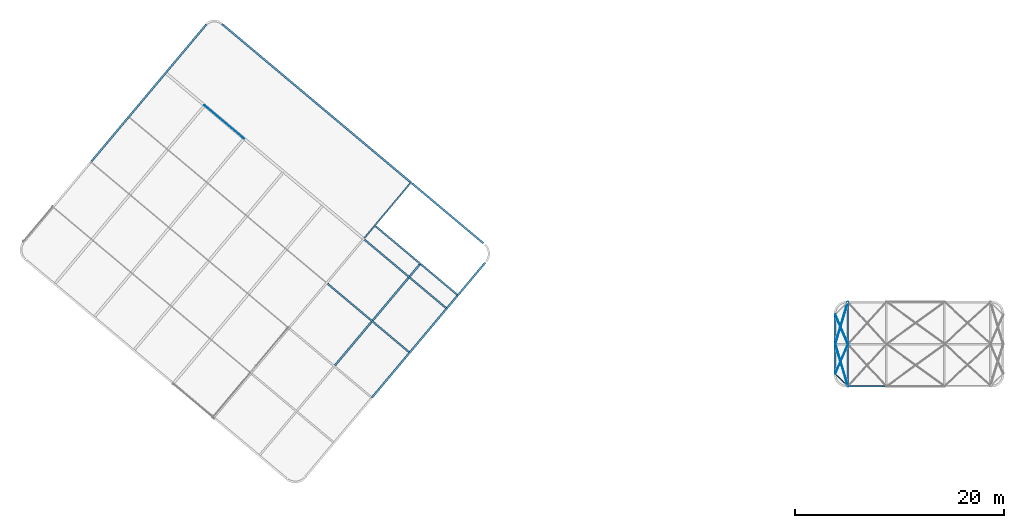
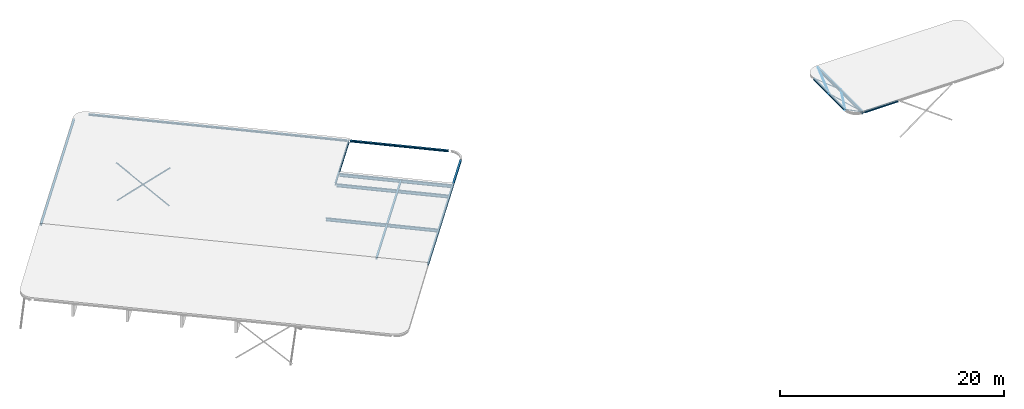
# One storey, part 2 of 14: 19 beams.
"""IFC2X3 building model written with IfcOpenShell, lengths in millimetres."""

from ifc_helpers import new_model, entity, si_unit, converted_unit, derived_unit, direction, frame, frame_2d, origin, origin_2d_with_axis, place, context, subcontext, project, spatial, polyline, circle_curve, parameter, trimmed, segment, composite_curve, rectangle, i_section, outline, extrude, material, type_object, element, save


model = new_model("IFC2X3")

# Units and contexts
model_context = context("Model", 3, precision=0.01, world=origin(), true_north=direction((6.123031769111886e-17, 1.0)))
body_context = subcontext(model_context, "Body", "Model", "MODEL_VIEW")
ifc_project = project(units=[si_unit("LENGTHUNIT", "METRE", prefix="MILLI"), si_unit("AREAUNIT", "SQUARE_METRE"), si_unit("VOLUMEUNIT", "CUBIC_METRE"), derived_unit("MASSDENSITYUNIT", [(si_unit("MASSUNIT", "GRAM", prefix="KILO"), 1), (si_unit("LENGTHUNIT", "METRE"), -3)]), si_unit("MASSUNIT", "GRAM", prefix="KILO"), converted_unit("PLANEANGLEUNIT", "DEGREE", entity("IfcPlaneAngleMeasure", 0.017453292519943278), si_unit("PLANEANGLEUNIT", "RADIAN"), dimensions=[0, 0, 0, 0, 0, 0, 0])], contexts=[model_context])

# Site, building, storey
site_placement = place(None, origin())
site = spatial("IfcSite", under=ifc_project, at=site_placement, Name="Default", CompositionType="ELEMENT")
building_placement = place(site_placement, origin())
building = spatial("IfcBuilding", under=site, at=building_placement, Name="AT constructie", CompositionType="ELEMENT")
storey_placement = place(building_placement, frame((0.0, 0.0, 12043.0)))
storey = spatial("IfcBuildingStorey", under=building, at=storey_placement, Name="03 derde verdieping", CompositionType="ELEMENT", Elevation=12043.0)

# Beams
ifc_material = material(Name="h2_staal_S355")
beam_type_1 = type_object("IfcBeamType", Name="balk HE_gen_HEA180", PredefinedType="NOTDEFINED")
beam_1_placement = place(storey_placement, frame((25986.9626621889, 57941.19901762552, 0.0), z_axis=(0.0, 0.0, 1.0), x_axis=(0.7660444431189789, -0.6427876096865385, 0.0)))
element("IfcBeam", 1, at=beam_1_placement, inside=storey, type_object=beam_type_1, material=ifc_material, Name="NLRS_28_SF_LIB_balk HEA_gen_AT:balk HE_gen_HEA180", ObjectType="NLRS_28_SF_LIB_balk HEA_gen_AT:balk HE_gen_HEA180", context=body_context, shape_type="SweptSolid", body=[
    extrude(i_section(OverallWidth=179.99999999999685, OverallDepth=171.0000000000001, WebThickness=6.000000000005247, FlangeThickness=9.500000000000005, FilletRadius=15.000000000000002, at=frame_2d((-2.1671553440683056e-12, 1.2192913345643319e-11), x_axis=(0.0, 1.0))), frame((0.0, -90.0, -377.5000000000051), z_axis=(1.0, 0.0, 0.0), x_axis=(0.0, 0.0, -1.0)), (0.0, 0.0, 1.0), 23439.999999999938),
])
beam_2_placement = place(storey_placement, frame((13390.213445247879, 44823.071642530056, 156.4578818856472), z_axis=(0.01028328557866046, 0.012255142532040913, 0.9998720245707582), x_axis=(0.6427053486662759, 0.7659464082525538, -0.015997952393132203)))
element("IfcBeam", 2, at=beam_2_placement, inside=storey, type_object=beam_type_1, material=ifc_material, Name="NLRS_28_SF_LIB_balk HEA_gen_AT:balk HE_gen_HEA180", ObjectType="NLRS_28_SF_LIB_balk HEA_gen_AT:balk HE_gen_HEA180", context=body_context, shape_type="SweptSolid", body=[
    extrude(i_section(OverallWidth=180.00000000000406, OverallDepth=170.99999999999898, WebThickness=5.999999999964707, FlangeThickness=9.499999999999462, FilletRadius=15.000000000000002, at=frame_2d((0.0, 0.0), x_axis=(0.0, 1.0))), frame((0.0, -90.0, -243.60000000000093), z_axis=(1.0, 0.0, 0.0), x_axis=(0.0, 0.0, -1.0)), (0.0, 0.0, 1.0), 17066.269623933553),
])
beam_3_placement = place(storey_placement, frame((40321.484826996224, 22098.692715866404, 157.88639266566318), z_axis=(0.010283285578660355, 0.012255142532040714, 0.9998720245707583), x_axis=(0.6427053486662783, 0.7659464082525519, -0.015997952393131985)))
element("IfcBeam", 3, at=beam_3_placement, inside=storey, type_object=beam_type_1, material=ifc_material, Name="NLRS_28_SF_LIB_balk HEA_gen_AT:balk HE_gen_HEA180", ObjectType="NLRS_28_SF_LIB_balk HEA_gen_AT:balk HE_gen_HEA180", context=body_context, shape_type="SweptSolid", body=[
    extrude(i_section(OverallWidth=179.99999999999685, OverallDepth=171.0000000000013, WebThickness=6.000000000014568, FlangeThickness=9.4999999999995, FilletRadius=15.000000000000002, at=frame_2d((-1.4210854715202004e-14, -4.710898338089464e-12), x_axis=(0.0, 1.0))), frame((0.0, 90.0, -243.5999999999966), z_axis=(1.0, 0.0, 0.0), x_axis=(0.0, 0.0, -1.0)), (0.0, 0.0, 1.0), 16851.20477146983),
])
beam_4_placement = place(storey_placement, frame((44142.21596410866, 42707.1326680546, 0.0), z_axis=(0.0, 0.0, 1.0), x_axis=(0.7660444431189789, -0.6427876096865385, 0.0)))
element("IfcBeam", 4, at=beam_4_placement, inside=storey, type_object=beam_type_1, material=ifc_material, Name="NLRS_28_SF_LIB_balk HEA_gen_AT:balk HE_gen_HEA180", ObjectType="NLRS_28_SF_LIB_balk HEA_gen_AT:balk HE_gen_HEA180", context=body_context, shape_type="SweptSolid", body=[
    extrude(i_section(OverallWidth=179.99999999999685, OverallDepth=171.0000000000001, WebThickness=6.000000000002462, FlangeThickness=9.500000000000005, FilletRadius=15.000000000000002, at=frame_2d((-2.1671553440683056e-12, 1.2192913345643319e-11), x_axis=(0.0, 1.0))), frame((0.0, -90.0, -377.5000000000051), z_axis=(1.0, 0.0, 0.0), x_axis=(0.0, 0.0, -1.0)), (0.0, 0.0, 1.0), 8919.999999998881),
])
beam_5_placement = place(storey_placement, frame((36726.29989996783, 25242.699436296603, 156.44649134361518), z_axis=(0.010283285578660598, 0.012255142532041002, 0.9998720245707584), x_axis=(0.6427053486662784, 0.7659464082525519, -0.01599795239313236)))
element("IfcBeam", 5, at=beam_5_placement, inside=storey, type_object=beam_type_1, material=ifc_material, Name="NLRS_28_SF_LIB_balk HEA_gen_AT:balk HE_gen_HEA180", ObjectType="NLRS_28_SF_LIB_balk HEA_gen_AT:balk HE_gen_HEA180", context=body_context, shape_type="SweptSolid", body=[
    extrude(i_section(OverallWidth=180.00000000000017, OverallDepth=171.00000000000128, WebThickness=6.000000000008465, FlangeThickness=9.49999999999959, FilletRadius=15.000000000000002, at=frame_2d((-7.105427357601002e-15, 3.055333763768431e-12), x_axis=(0.0, 1.0))), frame((0.0, 0.0, -243.60000000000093), z_axis=(1.0, 0.0, 0.0), x_axis=(0.0, 0.0, -1.0)), (0.0, 0.0, 1.0), 12611.902051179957),
])
beam_6_placement = place(storey_placement, frame((84426.87463111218, 29991.043508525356, 0.0), z_axis=(0.0, 0.0, 1.0), x_axis=(0.0, -1.0, 0.0)))
element("IfcBeam", 6, at=beam_6_placement, inside=storey, type_object=beam_type_1, material=ifc_material, Name="NLRS_28_SF_LIB_balk HEA_gen_AT:balk HE_gen_HEA180", ObjectType="NLRS_28_SF_LIB_balk HEA_gen_AT:balk HE_gen_HEA180", context=body_context, shape_type="SweptSolid", body=[
    extrude(i_section(OverallWidth=179.99999999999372, OverallDepth=171.0000000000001, WebThickness=5.999999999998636, FlangeThickness=9.500000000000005, FilletRadius=15.000000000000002, at=frame_2d((0.0, 0.0), x_axis=(0.0, 1.0))), frame((2.7000000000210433, 90.0, -85.50000000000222), z_axis=(1.0, 0.0, 0.0), x_axis=(0.0, 0.0, -1.0)), (0.0, 0.0, 1.0), 5434.599999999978),
])
beam_7_placement = place(storey_placement, frame((89327.37463111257, 23161.043508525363, 0.0), z_axis=(0.0, 0.0, 1.0), x_axis=(-1.0, 0.0, 0.0)))
element("IfcBeam", 7, at=beam_7_placement, inside=storey, type_object=beam_type_1, material=ifc_material, Name="NLRS_28_SF_LIB_balk HEA_gen_AT:balk HE_gen_HEA180", ObjectType="NLRS_28_SF_LIB_balk HEA_gen_AT:balk HE_gen_HEA180", context=body_context, shape_type="SweptSolid", body=[
    extrude(i_section(OverallWidth=180.0000000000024, OverallDepth=171.0000000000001, WebThickness=5.999999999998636, FlangeThickness=9.500000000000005, FilletRadius=15.000000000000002, at=origin_2d_with_axis()), frame((22.69999999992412, -90.0, -85.50000000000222), z_axis=(1.0, 0.0, 0.0), x_axis=(0.0, -1.0, 0.0)), (0.0, 0.0, 1.0), 3475.100000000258),
])
beam_type_2 = type_object("IfcBeamType", Name="balk strip liggend_gen_120x10", PredefinedType="NOTDEFINED")
beam_8_placement = place(storey_placement, frame((24280.165201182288, 50067.76032889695, -312.564122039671), z_axis=(0.49929457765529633, -0.41895789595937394, 0.7584057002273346), x_axis=(0.5809724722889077, -0.4874937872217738, -0.6517827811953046)))
element("IfcBeam", 8, at=beam_8_placement, inside=storey, type_object=beam_type_2, material=ifc_material, Name="NLRS_28_SF_LIB_balk strip_gen_AT:balk strip liggend_gen_120x10", ObjectType="NLRS_28_SF_LIB_balk strip_gen_AT:balk strip liggend_gen_120x10", context=body_context, shape_type="SweptSolid", body=[
    extrude(rectangle(XDim=119.9999999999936, YDim=10.00000000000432, at=frame_2d((1.5560885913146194e-12, 4.710010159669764e-12), x_axis=(1.0, 0.0))), frame((0.0, -5.0, 0.0), z_axis=(1.0, 0.0, 0.0), x_axis=(0.0, 0.0, -1.0)), (0.0, 0.0, 1.0), 6331.088854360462),
])
beam_9_placement = place(storey_placement, frame((28034.901618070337, 46917.04790423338, -288.10000000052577), z_axis=(-0.499294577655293, 0.4189578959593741, 0.7584057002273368), x_axis=(-0.5809724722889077, 0.48749378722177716, -0.6517827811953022)))
element("IfcBeam", 9, at=beam_9_placement, inside=storey, type_object=beam_type_2, material=ifc_material, Name="NLRS_28_SF_LIB_balk strip_gen_AT:balk strip liggend_gen_120x10", ObjectType="NLRS_28_SF_LIB_balk strip_gen_AT:balk strip liggend_gen_120x10", context=body_context, shape_type="SweptSolid", body=[
    extrude(rectangle(XDim=120.00000000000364, YDim=10.00000000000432, at=frame_2d((4.1886494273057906e-12, 8.029577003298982e-12), x_axis=(1.0, 0.0))), frame((0.0, 5.0, 0.0), z_axis=(1.0, 0.0, 0.0), x_axis=(0.0, 0.0, -1.0)), (0.0, 0.0, 1.0), 6368.623018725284),
])
beam_type_3 = type_object("IfcBeamType", Name="balk IPE_gen_270", PredefinedType="NOTDEFINED")
beam_10_placement = place(storey_placement, frame((39530.009843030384, 37412.76355096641, -21.553508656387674), z_axis=(0.010283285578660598, 0.012255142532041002, 0.9998720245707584), x_axis=(0.6427053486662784, 0.7659464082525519, -0.01599795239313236)))
element("IfcBeam", 10, at=beam_10_placement, inside=storey, type_object=beam_type_3, material=ifc_material, Name="NLRS_28_SF_LIB_balk IPE_gen_AT:balk IPE_gen_270", ObjectType="NLRS_28_SF_LIB_balk IPE_gen_AT:balk IPE_gen_270", context=body_context, shape_type="SweptSolid", body=[
    extrude(outline(composite_curve([segment(polyline([(124.80000000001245, -67.49999999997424), (135.0, -67.499999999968)]), True, "CONTINUOUS"), segment(polyline([(135.0, -67.49999999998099), (135.0, 67.50000000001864)]), True, "CONTINUOUS"), segment(polyline([(135.0, 67.50000000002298), (124.79999999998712, 67.50000000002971)]), True, "CONTINUOUS"), segment(polyline([(124.79999999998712, 67.50000000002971), (124.79999999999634, 18.30000000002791)]), True, "CONTINUOUS"), segment(trimmed(circle_curve(frame_2d((109.7999999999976, 18.300000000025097), x_axis=(1.0, 0.0)), 14.999999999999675), [parameter(269.99999999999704)], [parameter(0.0)], True, "PARAMETER"), False, "CONTINUOUS"), segment(polyline([(109.79999999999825, 3.300000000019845), (-109.79999999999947, 3.2999999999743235)]), True, "CONTINUOUS"), segment(trimmed(circle_curve(frame_2d((-109.8000000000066, 18.299999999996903), x_axis=(0.0, -1.0)), 14.999999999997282), [parameter(269.999999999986)], [parameter(0.0)], True, "PARAMETER"), False, "CONTINUOUS"), segment(polyline([(-124.80000000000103, 18.299999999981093), (-124.80000000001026, 67.4999999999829)]), True, "CONTINUOUS"), segment(polyline([(-124.80000000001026, 67.4999999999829), (-135.0, 67.49999999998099)]), True, "CONTINUOUS"), segment(polyline([(-135.0, 67.49999999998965), (-135.0, -67.50000000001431)]), True, "CONTINUOUS"), segment(polyline([(-135.0, -67.50000000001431), (-124.79999999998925, -67.50000000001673)]), True, "CONTINUOUS"), segment(polyline([(-124.7999999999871, -67.50000000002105), (-124.79999999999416, -18.30000000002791)]), True, "CONTINUOUS"), segment(trimmed(circle_curve(frame_2d((-109.7999999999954, -18.300000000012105), x_axis=(-1.0, 0.0)), 15.000000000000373), [parameter(269.99999999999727)], [parameter(0.0)], True, "PARAMETER"), False, "CONTINUOUS"), segment(polyline([(-109.79999999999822, -3.300000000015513), (109.7999999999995, -3.2999999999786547)]), True, "CONTINUOUS"), segment(trimmed(circle_curve(frame_2d((109.80000000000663, -18.299999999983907), x_axis=(0.0, 1.0)), 14.99999999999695), [parameter(269.99999999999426)], [parameter(0.0)], True, "PARAMETER"), False, "CONTINUOUS"), segment(polyline([(124.80000000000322, -18.29999999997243), (124.80000000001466, -67.49999999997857)]), True, "CONTINUOUS")], self_intersect=False)), frame((0.0, 0.0, -293.1000000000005), z_axis=(1.0, 0.0, 0.0), x_axis=(0.0, 0.0, -1.0)), (0.0, 0.0, 1.0), 7025.899142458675),
])
beam_type_4 = type_object("IfcBeamType", Name="balk_gen_K80x80x4", PredefinedType="NOTDEFINED")
beam_11_placement = place(storey_placement, frame((85749.87463111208, 23249.553335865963, 0.0), z_axis=(0.0, 0.0, 1.0), x_axis=(-0.7165996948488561, 0.6974846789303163, 0.0)))
element("IfcBeam", 11, at=beam_11_placement, inside=storey, type_object=beam_type_4, material=ifc_material, Name="NLRS_28_SF_LIB_balk koker vierkant_gen_AT:balk_gen_K80x80x4", ObjectType="NLRS_28_SF_LIB_balk koker vierkant_gen_AT:balk_gen_K80x80x4", context=body_context, shape_type="SweptSolid", body=[
    extrude(outline(composite_curve([segment(polyline([(-31.0, -40.0), (31.0, -40.0)]), True, "CONTINUOUS"), segment(trimmed(circle_curve(frame_2d((31.0, -31.0), x_axis=(0.0, -1.0)), 9.0), [parameter(359.9999999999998)], [parameter(89.99999999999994)], True, "PARAMETER"), True, "CONTINUOUS"), segment(polyline([(40.0, -31.0), (40.0, 31.0)]), True, "CONTINUOUS"), segment(trimmed(circle_curve(frame_2d((31.0, 31.0), x_axis=(0.0, -1.0)), 9.0), [parameter(90.0000000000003)], [parameter(180.00000000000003)], True, "PARAMETER"), True, "CONTINUOUS"), segment(polyline([(31.0, 40.0), (-31.0, 40.0)]), True, "CONTINUOUS"), segment(trimmed(circle_curve(frame_2d((-31.0, 31.0), x_axis=(0.0, -1.0)), 9.0), [parameter(179.99999999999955)], [parameter(269.9999999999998)], True, "PARAMETER"), True, "CONTINUOUS"), segment(polyline([(-40.0, 31.0), (-40.0, -31.0)]), True, "CONTINUOUS"), segment(trimmed(circle_curve(frame_2d((-31.0, -31.0), x_axis=(0.0, -1.0)), 9.0), [parameter(270.0000000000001)], [parameter(1.0177774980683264e-13)], True, "PARAMETER"), True, "CONTINUOUS")], self_intersect=False), holes=[composite_curve([segment(trimmed(circle_curve(frame_2d((-31.0, 31.0), x_axis=(0.0, -1.0)), 5.0), [parameter(180.0000000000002)], [parameter(270.0000000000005)], True, "PARAMETER"), False, "CONTINUOUS"), segment(polyline([(-31.0, 36.0), (31.0, 36.0)]), True, "CONTINUOUS"), segment(trimmed(circle_curve(frame_2d((31.0, 31.0), x_axis=(0.0, -1.0)), 5.0), [parameter(90.0000000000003)], [parameter(179.99999999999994)], True, "PARAMETER"), False, "CONTINUOUS"), segment(polyline([(36.0, 31.0), (36.0, -31.0)]), True, "CONTINUOUS"), segment(trimmed(circle_curve(frame_2d((31.0, -31.0), x_axis=(0.0, -1.0)), 5.0), [parameter(2.0355549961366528e-13)], [parameter(90.00000000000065)], True, "PARAMETER"), False, "CONTINUOUS"), segment(polyline([(31.0, -36.0), (-31.0, -36.0)]), True, "CONTINUOUS"), segment(trimmed(circle_curve(frame_2d((-31.0, -31.0), x_axis=(0.0, -1.0)), 5.0), [parameter(269.99999999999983)], [parameter(1.5266662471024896e-13)], True, "PARAMETER"), False, "CONTINUOUS"), segment(polyline([(-36.0, -31.0), (-36.0, 31.0)]), True, "CONTINUOUS")], self_intersect=False)]), frame((0.0, 0.0, -60.0), z_axis=(1.0, 0.0, 0.0), x_axis=(0.0, 0.0, -1.0)), (0.0, 0.0, 1.0), 1726.905563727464),
])
beam_type_5 = type_object("IfcBeamType", Name="balk IPE_gen_330", PredefinedType="NOTDEFINED")
beam_12_placement = place(storey_placement, frame((36027.022391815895, 33035.82157367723, 0.0), z_axis=(0.0, 0.0, 1.0), x_axis=(0.7660444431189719, -0.6427876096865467, 0.0)))
element("IfcBeam", 12, at=beam_12_placement, inside=storey, type_object=beam_type_5, material=ifc_material, Name="NLRS_28_SF_LIB_balk IPE_gen_AT:balk IPE_gen_330", ObjectType="NLRS_28_SF_LIB_balk IPE_gen_AT:balk IPE_gen_330", context=body_context, shape_type="SweptSolid", body=[
    extrude(outline(composite_curve([segment(polyline([(153.49999999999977, -80.0), (165.0, -80.0)]), True, "CONTINUOUS"), segment(polyline([(165.0, -80.0), (165.0, 80.0)]), True, "CONTINUOUS"), segment(polyline([(165.0, 80.0), (153.49999999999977, 80.0)]), True, "CONTINUOUS"), segment(polyline([(153.49999999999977, 80.0), (153.49999999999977, 21.75000000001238)]), True, "CONTINUOUS"), segment(trimmed(circle_curve(frame_2d((135.4999999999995, 21.75000000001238), x_axis=(1.0, 0.0)), 18.000000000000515), [parameter(269.9999999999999)], [parameter(0.0)], True, "PARAMETER"), False, "CONTINUOUS"), segment(polyline([(135.4999999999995, 3.75000000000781), (-135.49999999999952, 3.75000000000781)]), True, "CONTINUOUS"), segment(trimmed(circle_curve(frame_2d((-135.49999999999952, 21.75000000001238), x_axis=(0.0, -1.0)), 18.000000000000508), [parameter(269.9999999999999)], [parameter(0.0)], True, "PARAMETER"), False, "CONTINUOUS"), segment(polyline([(-153.49999999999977, 21.75000000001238), (-153.49999999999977, 80.0)]), True, "CONTINUOUS"), segment(polyline([(-153.49999999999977, 80.0), (-165.0, 80.0)]), True, "CONTINUOUS"), segment(polyline([(-165.0, 80.0), (-165.0, -80.0)]), True, "CONTINUOUS"), segment(polyline([(-165.0, -80.0), (-153.49999999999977, -80.0)]), True, "CONTINUOUS"), segment(polyline([(-153.49999999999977, -80.0), (-153.49999999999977, -21.749999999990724)]), True, "CONTINUOUS"), segment(trimmed(circle_curve(frame_2d((-135.49999999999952, -21.749999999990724), x_axis=(-1.0, 0.0)), 18.000000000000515), [parameter(269.9999999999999)], [parameter(0.0)], True, "PARAMETER"), False, "CONTINUOUS"), segment(polyline([(-135.49999999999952, -3.749999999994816), (135.4999999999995, -3.749999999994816)]), True, "CONTINUOUS"), segment(trimmed(circle_curve(frame_2d((135.4999999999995, -21.749999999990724), x_axis=(0.0, 1.0)), 18.000000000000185), [parameter(269.9999999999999)], [parameter(0.0)], True, "PARAMETER"), False, "CONTINUOUS"), segment(polyline([(153.49999999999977, -21.749999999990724), (153.49999999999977, -80.0)]), True, "CONTINUOUS")], self_intersect=False)), frame((0.0, 0.0, -255.0), z_axis=(1.0, 0.0, 0.0), x_axis=(0.0, 0.0, -1.0)), (0.0, 0.0, 1.0), 10159.999999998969),
])
beam_13_placement = place(storey_placement, frame((39562.35424509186, 37249.06601083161, 0.0), z_axis=(0.0, 0.0, 1.0), x_axis=(0.7660444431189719, -0.6427876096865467, 0.0)))
element("IfcBeam", 13, at=beam_13_placement, inside=storey, type_object=beam_type_5, material=ifc_material, Name="NLRS_28_SF_LIB_balk IPE_gen_AT:balk IPE_gen_330", ObjectType="NLRS_28_SF_LIB_balk IPE_gen_AT:balk IPE_gen_330", context=body_context, shape_type="SweptSolid", body=[
    extrude(outline(composite_curve([segment(polyline([(153.49999999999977, -80.0), (165.0, -80.0)]), True, "CONTINUOUS"), segment(polyline([(165.0, -80.0), (165.0, 80.0)]), True, "CONTINUOUS"), segment(polyline([(165.0, 80.0), (153.49999999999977, 80.0)]), True, "CONTINUOUS"), segment(polyline([(153.49999999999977, 80.0), (153.49999999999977, 21.75000000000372)]), True, "CONTINUOUS"), segment(trimmed(circle_curve(frame_2d((135.49999999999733, 21.75000000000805), x_axis=(1.0, 0.0)), 18.000000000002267), [parameter(270.00000000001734)], [parameter(0.0)], True, "PARAMETER"), False, "CONTINUOUS"), segment(polyline([(135.4999999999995, 3.750000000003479), (-135.49999999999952, 3.749999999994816)]), True, "CONTINUOUS"), segment(trimmed(circle_curve(frame_2d((-135.49999999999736, 21.75000000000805), x_axis=(0.0, -1.0)), 18.000000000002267), [parameter(270.00000000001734)], [parameter(0.0)], True, "PARAMETER"), False, "CONTINUOUS"), segment(polyline([(-153.49999999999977, 21.75000000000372), (-153.49999999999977, 80.0)]), True, "CONTINUOUS"), segment(polyline([(-153.49999999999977, 80.0), (-165.0, 80.0)]), True, "CONTINUOUS"), segment(polyline([(-165.0, 80.0), (-165.0, -80.0)]), True, "CONTINUOUS"), segment(polyline([(-165.0, -80.0), (-153.49999999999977, -80.0)]), True, "CONTINUOUS"), segment(polyline([(-153.49999999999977, -80.0), (-153.49999999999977, -21.749999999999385)]), True, "CONTINUOUS"), segment(trimmed(circle_curve(frame_2d((-135.50000000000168, -21.749999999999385), x_axis=(-1.0, 0.0)), 17.999999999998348), [parameter(269.99999999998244)], [parameter(0.0)], True, "PARAMETER"), False, "CONTINUOUS"), segment(polyline([(-135.49999999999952, -3.7499999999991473), (135.5000000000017, -3.7499999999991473)]), True, "CONTINUOUS"), segment(trimmed(circle_curve(frame_2d((135.5000000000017, -21.749999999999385), x_axis=(0.0, 1.0)), 17.999999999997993), [parameter(269.99999999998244)], [parameter(0.0)], True, "PARAMETER"), False, "CONTINUOUS"), segment(polyline([(153.49999999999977, -21.75000000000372), (153.49999999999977, -80.0)]), True, "CONTINUOUS")], self_intersect=False)), frame((0.0, 0.0, -345.0), z_axis=(1.0, 0.0, 0.0), x_axis=(0.0, 0.0, -1.0)), (0.0, 0.0, 1.0), 10159.999999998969),
])
beam_14_placement = place(storey_placement, frame((40633.23836842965, 38525.29601207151, 0.0), z_axis=(0.0, 0.0, 1.0), x_axis=(0.7660444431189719, -0.6427876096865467, 0.0)))
element("IfcBeam", 14, at=beam_14_placement, inside=storey, type_object=beam_type_5, material=ifc_material, Name="NLRS_28_SF_LIB_balk IPE_gen_AT:balk IPE_gen_330", ObjectType="NLRS_28_SF_LIB_balk IPE_gen_AT:balk IPE_gen_330", context=body_context, shape_type="SweptSolid", body=[
    extrude(outline(composite_curve([segment(polyline([(153.50000000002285, -80.0), (165.0, -80.0)]), True, "CONTINUOUS"), segment(polyline([(165.0, -80.0), (165.0, 80.0)]), True, "CONTINUOUS"), segment(polyline([(165.0, 80.0), (153.4999999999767, 80.0)]), True, "CONTINUOUS"), segment(polyline([(153.4999999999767, 80.0), (153.4999999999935, 21.750000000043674)]), True, "CONTINUOUS"), segment(trimmed(circle_curve(frame_2d((135.4999999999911, 21.750000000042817), x_axis=(1.0, 0.0)), 18.000000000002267), [parameter(270.00000000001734)], [parameter(0.0)], True, "PARAMETER"), False, "CONTINUOUS"), segment(polyline([(135.49999999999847, 3.750000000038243), (-135.50000000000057, 3.7499999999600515)]), True, "CONTINUOUS"), segment(trimmed(circle_curve(frame_2d((-135.5000000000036, 21.749999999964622), x_axis=(0.0, -1.0)), 18.000000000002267), [parameter(270.00000000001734)], [parameter(0.0)], True, "PARAMETER"), False, "CONTINUOUS"), segment(polyline([(-153.50000000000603, 21.749999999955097), (-153.50000000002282, 80.0)]), True, "CONTINUOUS"), segment(polyline([(-153.50000000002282, 80.0), (-165.0, 80.0)]), True, "CONTINUOUS"), segment(polyline([(-165.0, 80.0), (-165.0, -80.0)]), True, "CONTINUOUS"), segment(polyline([(-165.0, -80.0), (-153.49999999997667, -80.0)]), True, "CONTINUOUS"), segment(polyline([(-153.49999999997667, -80.0), (-153.49999999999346, -21.750000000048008)]), True, "CONTINUOUS"), segment(trimmed(circle_curve(frame_2d((-135.4999999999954, -21.750000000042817), x_axis=(-1.0, 0.0)), 17.999999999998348), [parameter(269.99999999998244)], [parameter(0.0)], True, "PARAMETER"), False, "CONTINUOUS"), segment(polyline([(-135.4999999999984, -3.750000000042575), (135.50000000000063, -3.749999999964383)]), True, "CONTINUOUS"), segment(trimmed(circle_curve(frame_2d((135.500000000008, -21.749999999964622), x_axis=(0.0, 1.0)), 17.999999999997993), [parameter(269.99999999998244)], [parameter(0.0)], True, "PARAMETER"), False, "CONTINUOUS"), segment(polyline([(153.50000000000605, -21.749999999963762), (153.50000000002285, -80.0)]), True, "CONTINUOUS")], self_intersect=False)), frame((0.0, 0.0, -371.0), z_axis=(1.0, 0.0, 0.0), x_axis=(0.0, 0.0, -1.0)), (0.0, 0.0, 1.0), 10159.999999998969),
])
beam_15_placement = place(storey_placement, frame((85726.87463111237, 23322.043549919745, 0.0), z_axis=(0.0, 0.0, 1.0), x_axis=(0.0, 1.0, 0.0)))
element("IfcBeam", 15, at=beam_15_placement, inside=storey, type_object=beam_type_5, material=ifc_material, Name="NLRS_28_SF_LIB_balk IPE_gen_AT:balk IPE_gen_330", ObjectType="NLRS_28_SF_LIB_balk IPE_gen_AT:balk IPE_gen_330", context=body_context, shape_type="SweptSolid", body=[
    extrude(outline(composite_curve([segment(polyline([(153.49999999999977, -80.0), (165.0, -80.0)]), True, "CONTINUOUS"), segment(polyline([(165.0, -80.0), (165.0, 80.0)]), True, "CONTINUOUS"), segment(polyline([(165.0, 80.0), (153.49999999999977, 80.0)]), True, "CONTINUOUS"), segment(polyline([(153.49999999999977, 80.0), (153.49999999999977, 21.749999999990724)]), True, "CONTINUOUS"), segment(trimmed(circle_curve(frame_2d((135.50000000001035, 21.749999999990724), x_axis=(1.0, 0.0)), 17.999999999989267), [parameter(269.99999999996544)], [parameter(0.0)], True, "PARAMETER"), False, "CONTINUOUS"), segment(polyline([(135.4999999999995, 3.749999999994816), (-135.49999999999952, 3.749999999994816)]), True, "CONTINUOUS"), segment(trimmed(circle_curve(frame_2d((-135.50000000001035, 21.749999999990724), x_axis=(0.0, -1.0)), 17.999999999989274), [parameter(269.99999999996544)], [parameter(0.0)], True, "PARAMETER"), False, "CONTINUOUS"), segment(polyline([(-153.49999999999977, 21.749999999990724), (-153.49999999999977, 80.0)]), True, "CONTINUOUS"), segment(polyline([(-153.49999999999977, 80.0), (-165.0, 80.0)]), True, "CONTINUOUS"), segment(polyline([(-165.0, 80.0), (-165.0, -80.0)]), True, "CONTINUOUS"), segment(polyline([(-165.0, -80.0), (-153.49999999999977, -80.0)]), True, "CONTINUOUS"), segment(polyline([(-153.49999999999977, -80.0), (-153.49999999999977, -21.749999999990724)]), True, "CONTINUOUS"), segment(trimmed(circle_curve(frame_2d((-135.50000000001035, -21.75000000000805), x_axis=(-1.0, 0.0)), 17.999999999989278), [parameter(269.99999999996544)], [parameter(0.0)], True, "PARAMETER"), False, "CONTINUOUS"), segment(polyline([(-135.49999999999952, -3.749999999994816), (135.4999999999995, -3.749999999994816)]), True, "CONTINUOUS"), segment(trimmed(circle_curve(frame_2d((135.50000000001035, -21.75000000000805), x_axis=(0.0, 1.0)), 17.999999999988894), [parameter(269.99999999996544)], [parameter(0.0)], True, "PARAMETER"), False, "CONTINUOUS"), segment(polyline([(153.49999999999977, -21.75000000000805), (153.49999999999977, -80.0)]), True, "CONTINUOUS")], self_intersect=False)), frame((0.0, 0.0, -165.0), z_axis=(1.0, 0.0, 0.0), x_axis=(0.0, 0.0, -1.0)), (0.0, 0.0, 1.0), 7897.999958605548),
])
beam_type_6 = type_object("IfcBeamType", Name="balk_gen_L70x70x7", PredefinedType="NOTDEFINED")
beam_16_placement = place(storey_placement, frame((85726.87463111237, 27281.41665840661, 0.0), z_axis=(0.0, 0.0, 1.0), x_axis=(-0.394546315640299, 0.9188760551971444, 0.0)))
element("IfcBeam", 16, at=beam_16_placement, inside=storey, type_object=beam_type_6, material=ifc_material, Name="NLRS_28_SF_LIB_balk hoeklijn_gen_AT:balk_gen_L70x70x7", ObjectType="NLRS_28_SF_LIB_balk hoeklijn_gen_AT:balk_gen_L70x70x7", context=body_context, shape_type="SweptSolid", body=[
    extrude(outline(composite_curve([segment(polyline([(23.94444444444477, -43.555555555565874), (26.4444444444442, -43.555555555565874)]), True, "CONTINUOUS"), segment(polyline([(26.4444444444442, -43.555555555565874), (26.4444444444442, 26.44444444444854)]), True, "CONTINUOUS"), segment(polyline([(26.4444444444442, 26.44444444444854), (-43.55555555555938, 26.44444444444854)]), True, "CONTINUOUS"), segment(polyline([(-43.55555555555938, 26.44444444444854), (-43.55555555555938, 23.94444444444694)]), True, "CONTINUOUS"), segment(trimmed(circle_curve(frame_2d((-39.05555555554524, 23.944444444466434), x_axis=(-1.0, 0.0)), 4.500000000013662), [parameter(0.0)], [parameter(89.99999999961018)], True, "PARAMETER"), True, "CONTINUOUS"), segment(polyline([(-39.055555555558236, 19.444444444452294), (10.44444444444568, 19.444444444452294)]), True, "CONTINUOUS"), segment(trimmed(circle_curve(frame_2d((10.444444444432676, 10.444444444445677), x_axis=(0.0, 1.0)), 9.000000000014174), [parameter(270.0000000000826)], [parameter(0.0)], True, "PARAMETER"), False, "CONTINUOUS"), segment(polyline([(19.444444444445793, 10.444444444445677), (19.444444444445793, -39.055555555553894)]), True, "CONTINUOUS"), segment(trimmed(circle_curve(frame_2d((23.94444444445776, -39.05555555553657), x_axis=(-1.0, 0.0)), 4.5000000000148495), [parameter(0.0)], [parameter(89.99999999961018)], True, "PARAMETER"), True, "CONTINUOUS")], self_intersect=False)), frame((0.0, -19.444444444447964, -73.55555555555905), z_axis=(1.0, 0.0, 0.0), x_axis=(0.0, 0.0, -1.0)), (0.0, 0.0, 1.0), 3054.140799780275),
])
beam_17_placement = place(storey_placement, frame((84521.87463111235, 27271.043508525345, 0.0), z_axis=(0.0, 0.0, 1.0), x_axis=(0.28267082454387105, 0.9592169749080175, 0.0)))
element("IfcBeam", 17, at=beam_17_placement, inside=storey, type_object=beam_type_6, material=ifc_material, Name="NLRS_28_SF_LIB_balk hoeklijn_gen_AT:balk_gen_L70x70x7", ObjectType="NLRS_28_SF_LIB_balk hoeklijn_gen_AT:balk_gen_L70x70x7", context=body_context, shape_type="SweptSolid", body=[
    extrude(outline(composite_curve([segment(polyline([(23.94444444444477, -43.55555555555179), (26.4444444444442, -43.55555555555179)]), True, "CONTINUOUS"), segment(polyline([(26.4444444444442, -43.55555555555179), (26.4444444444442, 26.44444444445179)]), True, "CONTINUOUS"), segment(polyline([(26.4444444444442, 26.44444444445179), (-43.55555555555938, 26.44444444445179)]), True, "CONTINUOUS"), segment(polyline([(-43.55555555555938, 26.44444444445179), (-43.55555555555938, 23.94444444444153)]), True, "CONTINUOUS"), segment(trimmed(circle_curve(frame_2d((-39.05555555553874, 23.944444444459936), x_axis=(-1.0, 0.0)), 4.5000000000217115), [parameter(0.0)], [parameter(89.99999999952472)], True, "PARAMETER"), True, "CONTINUOUS"), segment(polyline([(-39.055555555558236, 19.44444444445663), (10.44444444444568, 19.44444444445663)]), True, "CONTINUOUS"), segment(trimmed(circle_curve(frame_2d((10.444444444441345, 10.444444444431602), x_axis=(0.0, 1.0)), 9.0000000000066), [parameter(270.0000000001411)], [parameter(0.0)], True, "PARAMETER"), False, "CONTINUOUS"), segment(polyline([(19.444444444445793, 10.444444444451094), (19.444444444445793, -39.0555555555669)]), True, "CONTINUOUS"), segment(trimmed(circle_curve(frame_2d((23.944444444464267, -39.05555555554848), x_axis=(-1.0, 0.0)), 4.500000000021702), [parameter(0.0)], [parameter(89.99999999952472)], True, "PARAMETER"), True, "CONTINUOUS")], self_intersect=False)), frame((0.0, -19.444444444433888, -73.55555555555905), z_axis=(1.0, 0.0, 0.0), x_axis=(0.0, 0.0, -1.0)), (0.0, 0.0, 1.0), 4196.130912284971),
])
beam_18_placement = place(storey_placement, frame((85723.62463111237, 23246.043508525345, 0.0), z_axis=(0.0, 0.0, 1.0), x_axis=(-0.2843683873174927, 0.9587150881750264, 0.0)))
element("IfcBeam", 18, at=beam_18_placement, inside=storey, type_object=beam_type_6, material=ifc_material, Name="NLRS_28_SF_LIB_balk hoeklijn_gen_AT:balk_gen_L70x70x7", ObjectType="NLRS_28_SF_LIB_balk hoeklijn_gen_AT:balk_gen_L70x70x7", context=body_context, shape_type="SweptSolid", body=[
    extrude(outline(composite_curve([segment(polyline([(23.94444444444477, -43.55555555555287), (26.4444444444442, -43.55555555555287)]), True, "CONTINUOUS"), segment(polyline([(26.4444444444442, -43.55555555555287), (26.4444444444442, 26.44444444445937)]), True, "CONTINUOUS"), segment(polyline([(26.4444444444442, 26.44444444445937), (-43.55555555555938, 26.44444444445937)]), True, "CONTINUOUS"), segment(polyline([(-43.55555555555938, 26.44444444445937), (-43.55555555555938, 23.944444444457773)]), True, "CONTINUOUS"), segment(trimmed(circle_curve(frame_2d((-39.05555555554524, 23.944444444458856), x_axis=(-1.0, 0.0)), 4.500000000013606), [parameter(0.0)], [parameter(89.99999999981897)], True, "PARAMETER"), True, "CONTINUOUS"), segment(polyline([(-39.055555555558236, 19.444444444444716), (10.44444444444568, 19.444444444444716)]), True, "CONTINUOUS"), segment(trimmed(circle_curve(frame_2d((10.444444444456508, 10.44444444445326), x_axis=(0.0, 1.0)), 8.999999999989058), [parameter(269.9999999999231)], [parameter(0.0)], True, "PARAMETER"), False, "CONTINUOUS"), segment(polyline([(19.444444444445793, 10.444444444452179), (19.444444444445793, -39.055555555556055)]), True, "CONTINUOUS"), segment(trimmed(circle_curve(frame_2d((23.94444444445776, -39.055555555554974), x_axis=(-1.0, 0.0)), 4.500000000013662), [parameter(0.0)], [parameter(89.99999999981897)], True, "PARAMETER"), True, "CONTINUOUS")], self_intersect=False)), frame((0.0, -19.444444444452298, -73.55555555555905), z_axis=(1.0, 0.0, 0.0), x_axis=(0.0, 0.0, -1.0)), (0.0, 0.0, 1.0), 4195.6739934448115),
])
beam_19_placement = place(storey_placement, frame((84521.87463111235, 24451.043508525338, 0.0), z_axis=(0.0, 0.0, 1.0), x_axis=(0.3938051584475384, 0.919193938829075, 0.0)))
element("IfcBeam", 19, at=beam_19_placement, inside=storey, type_object=beam_type_6, material=ifc_material, Name="NLRS_28_SF_LIB_balk hoeklijn_gen_AT:balk_gen_L70x70x7", ObjectType="NLRS_28_SF_LIB_balk hoeklijn_gen_AT:balk_gen_L70x70x7", context=body_context, shape_type="SweptSolid", body=[
    extrude(outline(composite_curve([segment(polyline([(23.94444444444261, -43.55555555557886), (26.44444444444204, -43.55555555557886)]), True, "CONTINUOUS"), segment(polyline([(26.44444444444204, -43.55555555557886), (26.44444444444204, 26.4444444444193)]), True, "CONTINUOUS"), segment(polyline([(26.44444444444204, 26.444444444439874), (-43.55555555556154, 26.444444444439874)]), True, "CONTINUOUS"), segment(polyline([(-43.55555555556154, 26.444444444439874), (-43.55555555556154, 23.944444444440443)]), True, "CONTINUOUS"), segment(trimmed(circle_curve(frame_2d((-39.05555555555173, 23.944444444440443), x_axis=(-1.0, 0.0)), 4.50000000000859), [parameter(0.0)], [parameter(89.99999999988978)], True, "PARAMETER"), True, "CONTINUOUS"), segment(polyline([(-39.055555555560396, 19.44444444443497), (10.44444444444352, 19.44444444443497)]), True, "CONTINUOUS"), segment(trimmed(circle_curve(frame_2d((10.44444444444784, 10.444444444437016), x_axis=(0.0, 1.0)), 8.999999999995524), [parameter(269.9999999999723)], [parameter(0.0)], True, "PARAMETER"), False, "CONTINUOUS"), segment(polyline([(19.444444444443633, 10.444444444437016), (19.444444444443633, -39.05555555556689)]), True, "CONTINUOUS"), segment(trimmed(circle_curve(frame_2d((23.94444444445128, -39.05555555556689), x_axis=(-1.0, 0.0)), 4.5000000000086), [parameter(0.0)], [parameter(89.99999999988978)], True, "PARAMETER"), True, "CONTINUOUS")], self_intersect=False)), frame((0.0, -19.444444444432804, -73.55555555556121), z_axis=(1.0, 0.0, 0.0), x_axis=(0.0, 0.0, -1.0)), (0.0, 0.0, 1.0), 3059.8888159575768),
])

save(model, "model.ifc")
